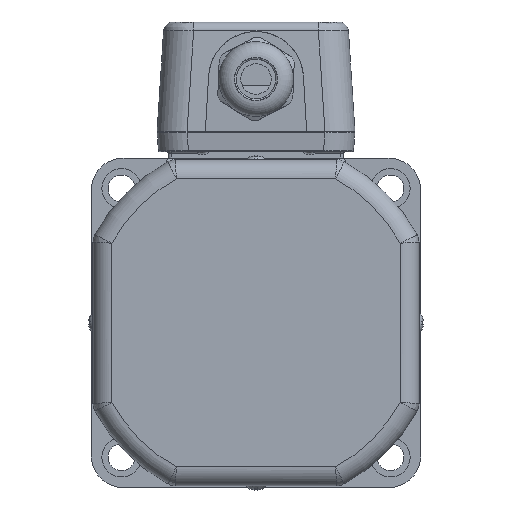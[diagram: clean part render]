
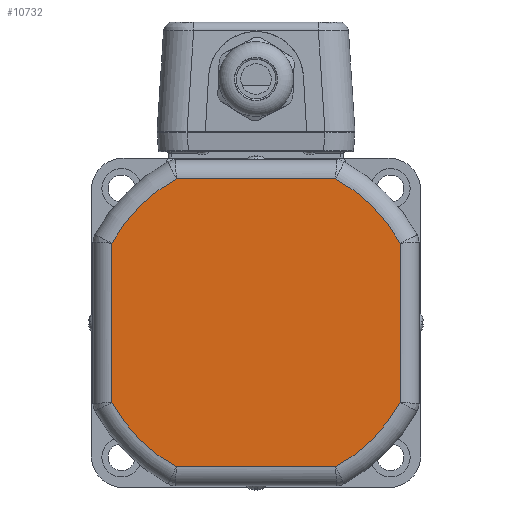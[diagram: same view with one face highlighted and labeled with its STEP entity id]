
A CAD part, left-side view. The second image highlights one B-rep face of the part: STEP entity #10732.
In plain terms, the highlighted planar face has unit normal (-1, 0, 0).
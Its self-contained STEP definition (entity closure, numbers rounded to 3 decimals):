
#9288=CARTESIAN_POINT('',(-20.,25.174,45.5));
#9289=VERTEX_POINT('',#9288);
#9339=CARTESIAN_POINT('',(-20.,45.5,25.174));
#9340=VERTEX_POINT('',#9339);
#9369=CARTESIAN_POINT('',(-20.,0.,0.));
#9370=DIRECTION('',(1.0,0.0,0.0));
#9371=DIRECTION('',(0.0,0.707,0.707));
#9372=AXIS2_PLACEMENT_3D('',#9369,#9370,#9371);
#9373=CIRCLE('',#9372,52.);
#9374=EDGE_CURVE('',#9340,#9289,#9373,.T.);
#9517=CARTESIAN_POINT('',(-20.,45.5,-25.174));
#9518=VERTEX_POINT('',#9517);
#9534=CARTESIAN_POINT('',(-20.,45.5,-25.174));
#9535=DIRECTION('',(0.0,0.0,1.0));
#9536=VECTOR('',#9535,50.349);
#9537=LINE('',#9534,#9536);
#9538=EDGE_CURVE('',#9518,#9340,#9537,.T.);
#9680=CARTESIAN_POINT('',(-20.,25.174,-45.5));
#9681=VERTEX_POINT('',#9680);
#9697=CARTESIAN_POINT('',(-20.,0.,0.));
#9698=DIRECTION('',(1.0,0.0,0.0));
#9699=DIRECTION('',(0.0,0.707,-0.707));
#9700=AXIS2_PLACEMENT_3D('',#9697,#9698,#9699);
#9701=CIRCLE('',#9700,52.);
#9702=EDGE_CURVE('',#9681,#9518,#9701,.T.);
#9832=CARTESIAN_POINT('',(-20.,-25.174,-45.5));
#9833=VERTEX_POINT('',#9832);
#9862=CARTESIAN_POINT('',(-20.,-25.174,-45.5));
#9863=DIRECTION('',(0.0,1.0,0.0));
#9864=VECTOR('',#9863,50.349);
#9865=LINE('',#9862,#9864);
#9866=EDGE_CURVE('',#9833,#9681,#9865,.T.);
#10082=CARTESIAN_POINT('',(-20.,-45.5,-25.174));
#10083=VERTEX_POINT('',#10082);
#10149=CARTESIAN_POINT('',(-20.,0.,0.));
#10150=DIRECTION('',(1.0,0.0,0.0));
#10151=DIRECTION('',(0.0,-0.707,-0.707));
#10152=AXIS2_PLACEMENT_3D('',#10149,#10150,#10151);
#10153=CIRCLE('',#10152,52.);
#10154=EDGE_CURVE('',#10083,#9833,#10153,.T.);
#10173=CARTESIAN_POINT('',(-20.,-45.5,25.174));
#10174=VERTEX_POINT('',#10173);
#10190=CARTESIAN_POINT('',(-20.,-45.5,25.174));
#10191=DIRECTION('',(0.0,0.0,-1.0));
#10192=VECTOR('',#10191,50.349);
#10193=LINE('',#10190,#10192);
#10194=EDGE_CURVE('',#10174,#10083,#10193,.T.);
#10313=CARTESIAN_POINT('',(-20.,-25.174,45.5));
#10314=VERTEX_POINT('',#10313);
#10329=CARTESIAN_POINT('',(-20.,0.,0.));
#10330=DIRECTION('',(1.0,0.0,0.0));
#10331=DIRECTION('',(0.0,-0.707,0.707));
#10332=AXIS2_PLACEMENT_3D('',#10329,#10330,#10331);
#10333=CIRCLE('',#10332,52.);
#10334=EDGE_CURVE('',#10314,#10174,#10333,.T.);
#10462=CARTESIAN_POINT('',(-20.,25.174,45.5));
#10463=DIRECTION('',(0.0,-1.0,0.0));
#10464=VECTOR('',#10463,50.349);
#10465=LINE('',#10462,#10464);
#10466=EDGE_CURVE('',#9289,#10314,#10465,.T.);
#10717=CARTESIAN_POINT('',(-20.,0.,0.));
#10718=DIRECTION('',(-1.0,0.0,0.0));
#10719=DIRECTION('',(0.0,0.0,1.0));
#10720=AXIS2_PLACEMENT_3D('',#10717,#10718,#10719);
#10721=PLANE('',#10720);
#10722=ORIENTED_EDGE('',*,*,#10466,.F.);
#10723=ORIENTED_EDGE('',*,*,#9374,.F.);
#10724=ORIENTED_EDGE('',*,*,#9538,.F.);
#10725=ORIENTED_EDGE('',*,*,#9702,.F.);
#10726=ORIENTED_EDGE('',*,*,#9866,.F.);
#10727=ORIENTED_EDGE('',*,*,#10154,.F.);
#10728=ORIENTED_EDGE('',*,*,#10194,.F.);
#10729=ORIENTED_EDGE('',*,*,#10334,.F.);
#10730=EDGE_LOOP('',(#10722,#10723,#10724,#10725,#10726,#10727,#10728,#10729));
#10731=FACE_OUTER_BOUND('',#10730,.T.);
#10732=ADVANCED_FACE('',(#10731),#10721,.T.);
